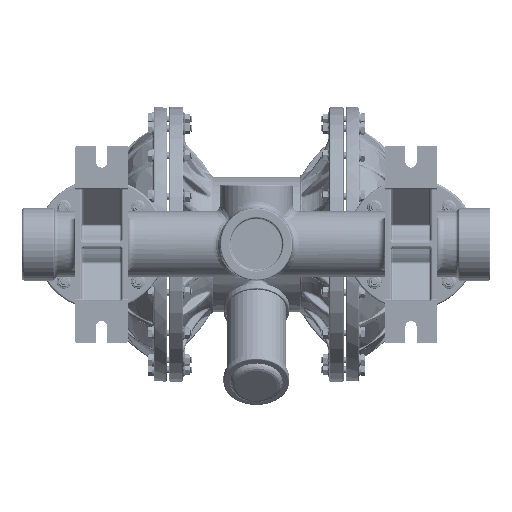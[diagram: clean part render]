
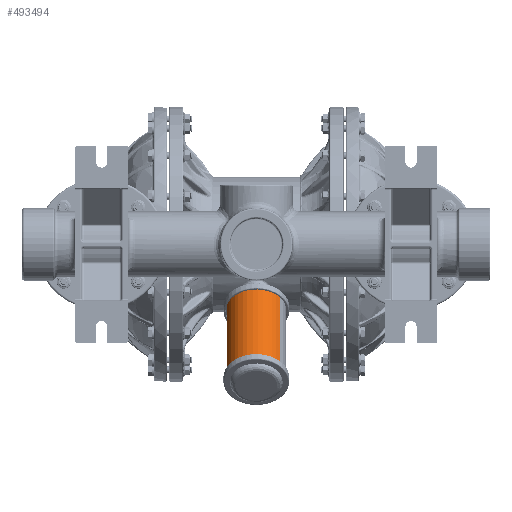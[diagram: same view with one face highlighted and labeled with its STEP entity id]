
A CAD part, front view. The second image highlights one B-rep face of the part: STEP entity #493494.
In plain terms, the highlighted cylindrical face has radius 45 mm (diameter 90 mm), a partial arc.
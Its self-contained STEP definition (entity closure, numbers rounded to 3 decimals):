
#5162 = CARTESIAN_POINT ( 'NONE',  ( -35.74, -185.726, -224.396 ) ) ;
#8943 = CARTESIAN_POINT ( 'NONE',  ( 0., -92.949, -92.949 ) ) ;
#16544 = EDGE_CURVE ( 'NONE', #93607, #287178, #56498, .T. ) ;
#52207 = EDGE_CURVE ( 'NONE', #465731, #355349, #542335, .T. ) ;
#56498 = CIRCLE ( 'NONE', #66976, 45. ) ;
#66976 = AXIS2_PLACEMENT_3D ( 'NONE', #556330, #259108, #598014 ) ;
#72827 = CARTESIAN_POINT ( 'NONE',  ( -35.74, -78.953, -117.623 ) ) ;
#88960 = DIRECTION ( 'NONE',  ( 0., -0.707, -0.707 ) ) ;
#93607 = VERTEX_POINT ( 'NONE', #594160 ) ;
#112581 = DIRECTION ( 'NONE',  ( -0.794, 0.43, -0.43 ) ) ;
#165361 = CYLINDRICAL_SURFACE ( 'NONE', #300742, 45. ) ;
#186344 = CARTESIAN_POINT ( 'NONE',  ( 35.74, -112.284, -73.614 ) ) ;
#206546 = EDGE_CURVE ( 'NONE', #287178, #465731, #223415, .T. ) ;
#223415 = LINE ( 'NONE', #274480, #233837 ) ;
#233837 = VECTOR ( 'NONE', #88960, 1000. ) ;
#248448 = ORIENTED_EDGE ( 'NONE', *, *, #52207, .T. ) ;
#259108 = DIRECTION ( 'NONE',  ( 0., -0.707, -0.707 ) ) ;
#274480 = CARTESIAN_POINT ( 'NONE',  ( -35.74, -73.614, -112.284 ) ) ;
#287178 = VERTEX_POINT ( 'NONE', #72827 ) ;
#295048 = CARTESIAN_POINT ( 'NONE',  ( 35.74, -224.396, -185.726 ) ) ;
#300742 = AXIS2_PLACEMENT_3D ( 'NONE', #8943, #501088, #603324 ) ;
#320634 = EDGE_LOOP ( 'NONE', ( #416293, #376952, #378934, #248448 ) ) ;
#327042 = DIRECTION ( 'NONE',  ( 0., -0.707, -0.707 ) ) ;
#347723 = FACE_OUTER_BOUND ( 'NONE', #320634, .T. ) ;
#352261 = CARTESIAN_POINT ( 'NONE',  ( 0., -205.061, -205.061 ) ) ;
#355349 = VERTEX_POINT ( 'NONE', #295048 ) ;
#376952 = ORIENTED_EDGE ( 'NONE', *, *, #16544, .T. ) ;
#378934 = ORIENTED_EDGE ( 'NONE', *, *, #206546, .T. ) ;
#386060 = VECTOR ( 'NONE', #327042, 1000. ) ;
#416293 = ORIENTED_EDGE ( 'NONE', *, *, #598423, .F. ) ;
#465731 = VERTEX_POINT ( 'NONE', #5162 ) ;
#493494 = ADVANCED_FACE ( 'NONE', ( #347723 ), #165361, .T. ) ;
#501088 = DIRECTION ( 'NONE',  ( 0., -0.707, -0.707 ) ) ;
#505644 = DIRECTION ( 'NONE',  ( 0., 0.707, 0.707 ) ) ;
#542335 = CIRCLE ( 'NONE', #613954, 45. ) ;
#556330 = CARTESIAN_POINT ( 'NONE',  ( 0., -98.288, -98.288 ) ) ;
#573137 = LINE ( 'NONE', #186344, #386060 ) ;
#594160 = CARTESIAN_POINT ( 'NONE',  ( 35.74, -117.623, -78.953 ) ) ;
#598014 = DIRECTION ( 'NONE',  ( -0.794, 0.43, -0.43 ) ) ;
#598423 = EDGE_CURVE ( 'NONE', #93607, #355349, #573137, .T. ) ;
#603324 = DIRECTION ( 'NONE',  ( -0.794, 0.43, -0.43 ) ) ;
#613954 = AXIS2_PLACEMENT_3D ( 'NONE', #352261, #505644, #112581 ) ;
